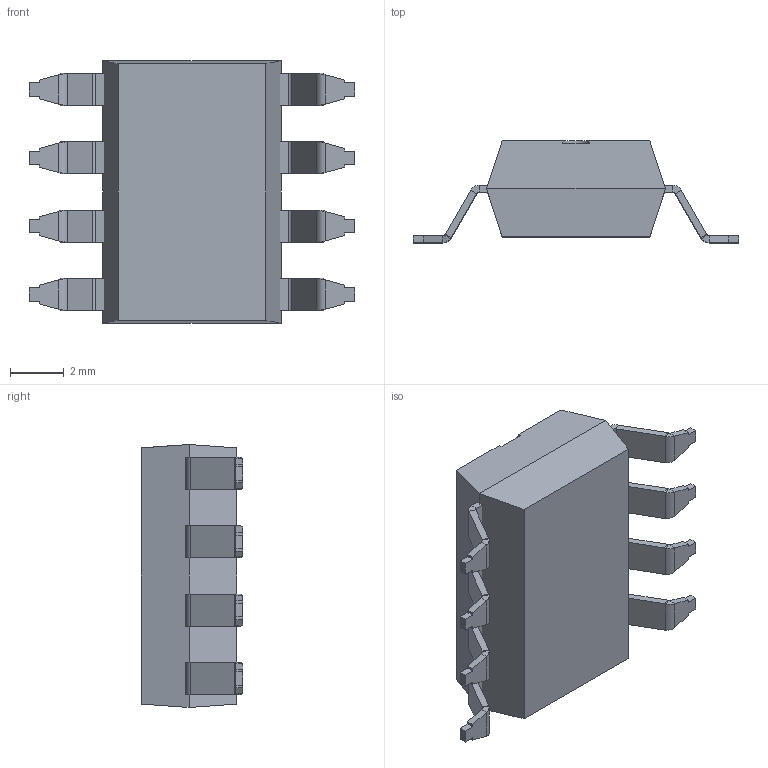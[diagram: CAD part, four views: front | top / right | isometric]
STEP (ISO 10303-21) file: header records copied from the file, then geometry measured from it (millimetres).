
FILE_DESCRIPTION (( 'STEP AP214' ), '1' );
FILE_NAME ('DIP8-OP8.STEP', '2015-12-12T20:47:13', ( '' ), ( '' ), 'SwSTEP 2.0', 'SolidWorks 2015', '' );
FILE_SCHEMA (( 'AUTOMOTIVE_DESIGN' ));
Length unit declared in the file: millimetre
Products named in the file (2): DIP8-OP8
Bounding box: 12.1 x 3.78 x 9.77 mm (x, y, z)
Volume: 242.9 mm3; surface area: 649.3 mm2
Topology: 4 solids, 4 shells, 226 faces, 526 edges, 308 vertices
Faces by surface type: plane 177, cylinder 33, bspline 16
Entity records: 6518 total; most frequent: CARTESIAN_POINT 1340, ORIENTED_EDGE 1052, DIRECTION 950, EDGE_CURVE 526, VECTOR 394, LINE 394, VERTEX_POINT 308, AXIS2_PLACEMENT_3D 278
